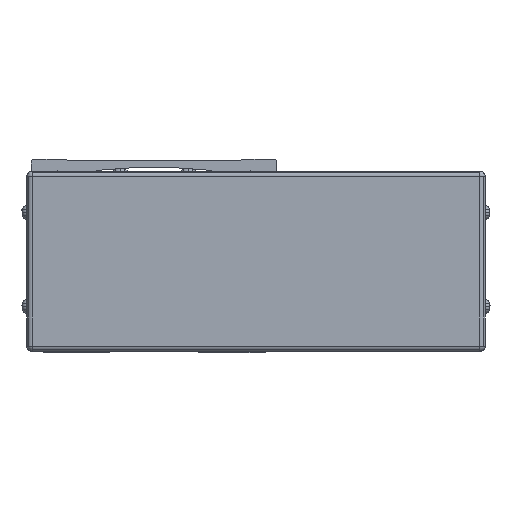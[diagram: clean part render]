
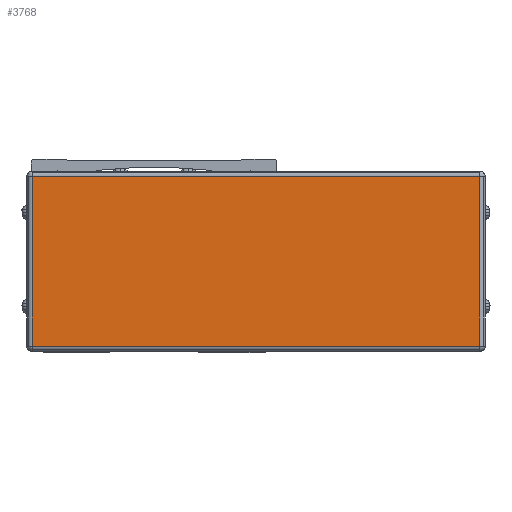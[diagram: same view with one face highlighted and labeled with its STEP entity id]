
A CAD part, front view. The second image highlights one B-rep face of the part: STEP entity #3768.
In plain terms, the highlighted planar face has unit normal (0, -1, 0).
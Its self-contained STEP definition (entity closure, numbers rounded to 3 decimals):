
#3768=ADVANCED_FACE('',(#9363),#9364,.T.);
#9363=FACE_OUTER_BOUND('',#17903,.T.);
#9364=PLANE('',#17904);
#17903=EDGE_LOOP('',(#29103,#29104,#29105,#29106));
#17904=AXIS2_PLACEMENT_3D('',#29107,#29108,#29109);
#29103=ORIENTED_EDGE('',*,*,#50113,.F.);
#29104=ORIENTED_EDGE('',*,*,#50114,.F.);
#29105=ORIENTED_EDGE('',*,*,#50115,.F.);
#29106=ORIENTED_EDGE('',*,*,#50116,.F.);
#29107=CARTESIAN_POINT('',(39.,-288.778,-42.5));
#29108=DIRECTION('',(0.0,-1.0,0.0));
#29109=DIRECTION('',(1.0,0.0,0.0));
#50113=EDGE_CURVE('',#60872,#60873,#60874,.T.);
#50114=EDGE_CURVE('',#60875,#60872,#60876,.T.);
#50115=EDGE_CURVE('',#60091,#60875,#60877,.T.);
#50116=EDGE_CURVE('',#60873,#60091,#60878,.T.);
#60091=VERTEX_POINT('',#75077);
#60872=VERTEX_POINT('',#76206);
#60873=VERTEX_POINT('',#76207);
#60874=LINE('',#76208,#76209);
#60875=VERTEX_POINT('',#76210);
#60876=LINE('',#76211,#76212);
#60877=LINE('',#76213,#76214);
#60878=LINE('',#76215,#76216);
#75077=CARTESIAN_POINT('',(-46.7,-288.778,24.5));
#76206=CARTESIAN_POINT('',(124.7,-288.778,-40.5));
#76207=CARTESIAN_POINT('',(-46.7,-288.778,-40.5));
#76208=CARTESIAN_POINT('',(39.,-288.778,-40.5));
#76209=VECTOR('',#91915,10.0);
#76210=CARTESIAN_POINT('',(124.7,-288.778,24.5));
#76211=CARTESIAN_POINT('',(124.7,-288.778,-42.5));
#76212=VECTOR('',#91916,10.0);
#76213=CARTESIAN_POINT('',(39.,-288.778,24.5));
#76214=VECTOR('',#91917,10.0);
#76215=CARTESIAN_POINT('',(-46.7,-288.778,-42.5));
#76216=VECTOR('',#91918,10.0);
#91915=DIRECTION('',(-1.0,0.0,0.0));
#91916=DIRECTION('',(0.0,0.0,-1.0));
#91917=DIRECTION('',(1.0,0.0,0.0));
#91918=DIRECTION('',(0.0,0.0,1.0));
